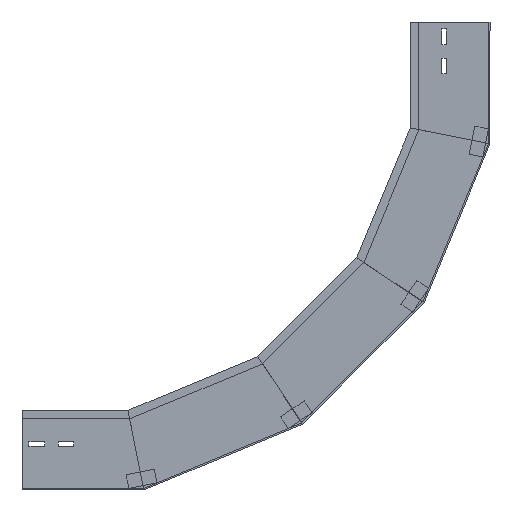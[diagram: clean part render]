
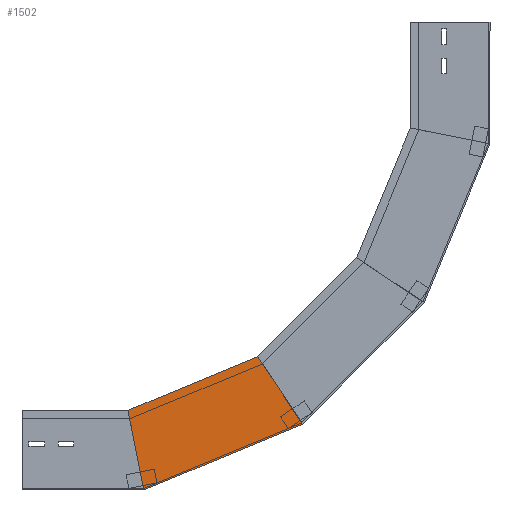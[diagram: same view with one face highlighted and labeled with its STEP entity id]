
A CAD part, left-side view. The second image highlights one B-rep face of the part: STEP entity #1502.
In plain terms, the highlighted planar face has unit normal (-1, 0, 0) as drawn and (1, 0, 0) by its records, which use the part's own axes.
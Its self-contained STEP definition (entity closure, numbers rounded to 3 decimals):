
#54 = VERTEX_POINT ( 'NONE', #179 ) ;
#65 = DIRECTION ( 'NONE',  ( -1., 0., 0. ) ) ;
#75 = PLANE ( 'NONE',  #1663 ) ;
#117 = VECTOR ( 'NONE', #457, 1000. ) ;
#179 = CARTESIAN_POINT ( 'NONE',  ( 0., 112.5, -149.722 ) ) ;
#192 = CARTESIAN_POINT ( 'NONE',  ( 0., 0., -172.1 ) ) ;
#209 = VECTOR ( 'NONE', #1133, 1000. ) ;
#279 = LINE ( 'NONE', #568, #209 ) ;
#308 = VERTEX_POINT ( 'NONE', #1199 ) ;
#315 = CARTESIAN_POINT ( 'NONE',  ( 0., 132.464, -370.346 ) ) ;
#423 = EDGE_CURVE ( 'NONE', #54, #1838, #928, .T. ) ;
#455 = LINE ( 'NONE', #315, #543 ) ;
#457 = DIRECTION ( 'NONE',  ( 0., 0.383, -0.924 ) ) ;
#543 = VECTOR ( 'NONE', #1355, 1000. ) ;
#568 = CARTESIAN_POINT ( 'NONE',  ( 0., 0., -172.1 ) ) ;
#660 = ORIENTED_EDGE ( 'NONE', *, *, #423, .T. ) ;
#740 = ORIENTED_EDGE ( 'NONE', *, *, #1752, .F. ) ;
#826 = ORIENTED_EDGE ( 'NONE', *, *, #1296, .F. ) ;
#861 = EDGE_CURVE ( 'NONE', #1838, #916, #279, .T. ) ;
#900 = CARTESIAN_POINT ( 'NONE',  ( 0., 103.936, -129.048 ) ) ;
#916 = VERTEX_POINT ( 'NONE', #931 ) ;
#919 = CARTESIAN_POINT ( 'NONE',  ( 0., 32.93, -165.55 ) ) ;
#928 = LINE ( 'NONE', #919, #1867 ) ;
#931 = CARTESIAN_POINT ( 'NONE',  ( 0., 93.03, -396.695 ) ) ;
#1133 = DIRECTION ( 'NONE',  ( 0., 0.383, -0.924 ) ) ;
#1195 = CARTESIAN_POINT ( 'NONE',  ( 0., 0., -172.1 ) ) ;
#1199 = CARTESIAN_POINT ( 'NONE',  ( 0., 188.403, -332.969 ) ) ;
#1220 = DIRECTION ( 'NONE',  ( 0., 0., 1. ) ) ;
#1296 = EDGE_CURVE ( 'NONE', #54, #308, #1615, .T. ) ;
#1355 = DIRECTION ( 'NONE',  ( 0., -0.831, -0.556 ) ) ;
#1414 = EDGE_LOOP ( 'NONE', ( #826, #660, #1711, #740 ) ) ;
#1497 = DIRECTION ( 'NONE',  ( 0., -0.981, -0.195 ) ) ;
#1499 = FACE_OUTER_BOUND ( 'NONE', #1414, .T. ) ;
#1502 = ADVANCED_FACE ( 'NONE', ( #1499 ), #75, .F. ) ;
#1615 = LINE ( 'NONE', #900, #117 ) ;
#1663 = AXIS2_PLACEMENT_3D ( 'NONE', #192, #65, #1220 ) ;
#1711 = ORIENTED_EDGE ( 'NONE', *, *, #861, .T. ) ;
#1752 = EDGE_CURVE ( 'NONE', #308, #916, #455, .T. ) ;
#1838 = VERTEX_POINT ( 'NONE', #1195 ) ;
#1867 = VECTOR ( 'NONE', #1497, 1000. ) ;
